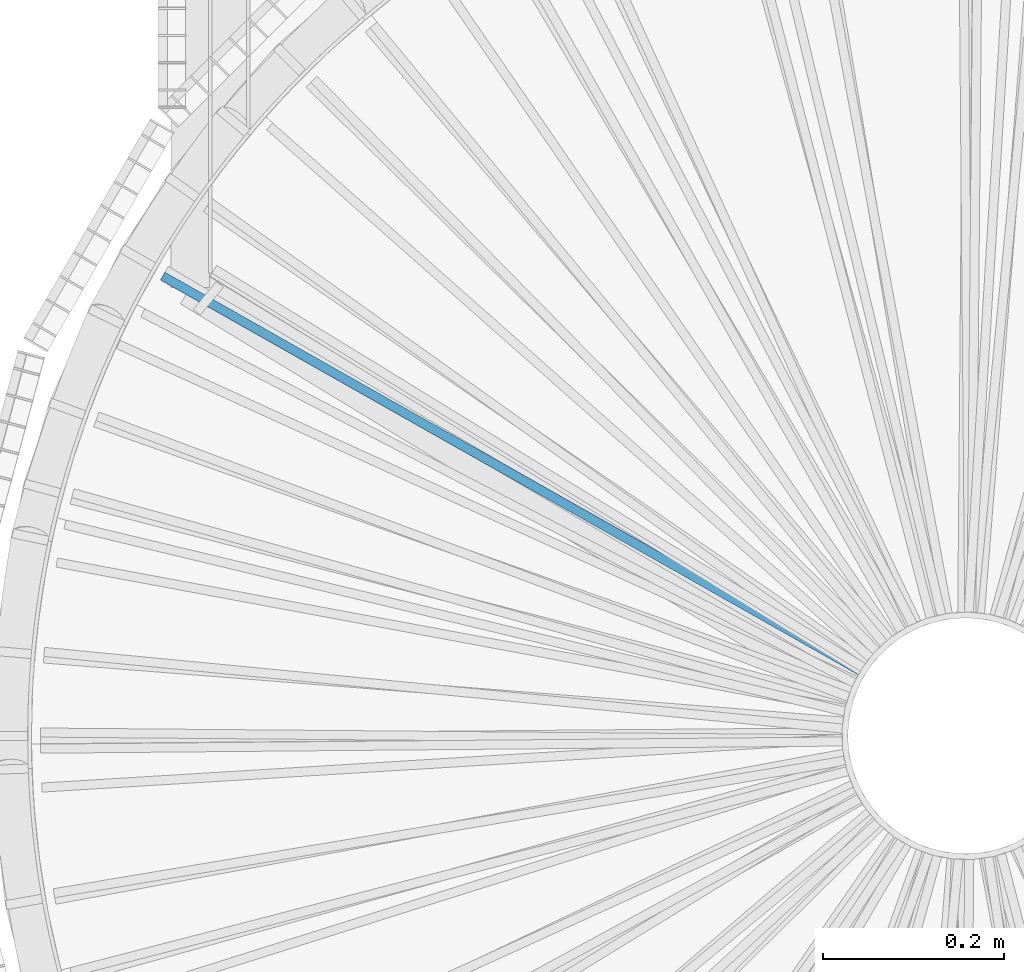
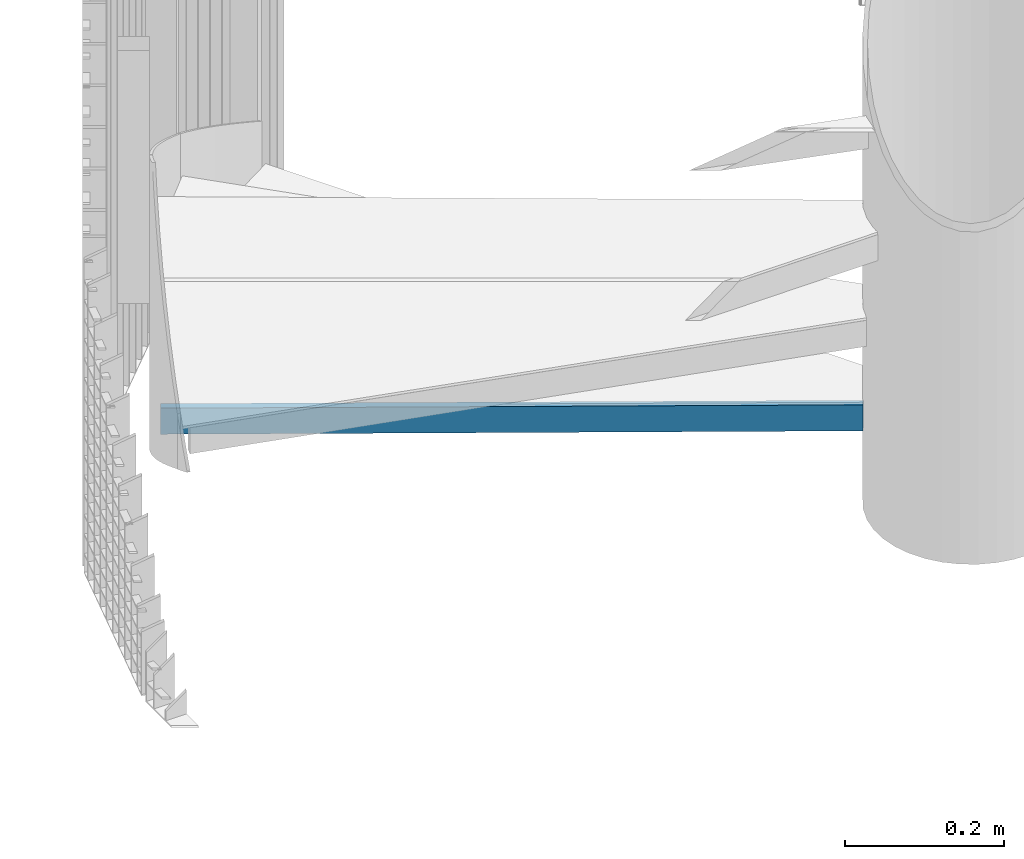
# One storey, part 229 of 1183: 1 beam, 1 element without a shape of its own.
"""IFC2X3 building model written with IfcOpenShell, lengths in millimetres."""

import ifcopenshell
import ifcopenshell.guid

model = None  # the IFC model being written
_history = None  # IfcOwnerHistory: only IFC2X3 demands one
_inside = {}  # id of a spatial element -> (the spatial element, [elements in it])
_under = {}  # id of a project, library or spatial element -> (it, [spatial elements below it])
_declared = {}  # id of a project -> (the project, [libraries it declares])
_typed = {}  # id of a type object -> (the type object, [elements of that type])
_made_of = {}  # id of a material, layer set ... -> (it, [elements and type objects made of it])


def new_model(schema):
    """Start an empty IFC model of exactly this schema.

    Asked for "IFC4X3", IfcOpenShell would pick the latest addendum, in which some entities
    have other attributes; the version numbers below select the first issue.
    IFC2X3 requires an IfcOwnerHistory on every rooted entity: one is made here for all.
    """
    global model, _history
    if schema == "IFC4X3":
        model = ifcopenshell.file(schema_version=(4, 3, 0, 0))
    else:
        model = ifcopenshell.file(schema=schema)
    _inside.clear()
    _under.clear()
    _declared.clear()
    _typed.clear()
    _made_of.clear()
    _history = None
    if model.schema == "IFC2X3":
        org = make("IfcOrganization", Name="unknown")
        user = make(
            "IfcPersonAndOrganization",
            ThePerson=make("IfcPerson", FamilyName="unknown"),
            TheOrganization=org,
        )
        app = make(
            "IfcApplication",
            ApplicationDeveloper=org,
            Version="unknown",
            ApplicationFullName="unknown",
            ApplicationIdentifier="unknown",
        )
        _history = make(
            "IfcOwnerHistory",
            OwningUser=user,
            OwningApplication=app,
            ChangeAction="ADDED",
            CreationDate=0,
        )
    return model


def make(cls, **values):
    """One entity of the class cls with the attributes given. An attribute that is None is left unset."""
    return model.create_entity(
        cls, **{name: value for name, value in values.items() if value is not None}
    )


def rooted(cls, **values):
    """An entity with a GlobalId (a new one), such as an element, a storey or a relation."""
    return make(cls, GlobalId=ifcopenshell.guid.new(), OwnerHistory=_history, **values)


def si_unit(unit_type, name, prefix=None):
    """IfcSIUnit, for example si_unit("LENGTHUNIT", "METRE", prefix="MILLI")."""
    return make("IfcSIUnit", UnitType=unit_type, Prefix=prefix, Name=name)


def assignment(units):
    """IfcUnitAssignment: the units of a project."""
    return None if units is None else make("IfcUnitAssignment", Units=units)


def point(xyz):
    """IfcCartesianPoint."""
    return None if xyz is None else make("IfcCartesianPoint", Coordinates=xyz)


def direction(xyz):
    """IfcDirection."""
    return None if xyz is None else make("IfcDirection", DirectionRatios=xyz)


def frame(location, z_axis=None, x_axis=None):
    """IfcAxis2Placement3D, a coordinate frame: its origin and axes. An axis left out is left unset."""
    return make(
        "IfcAxis2Placement3D",
        Location=point(location),
        Axis=direction(z_axis),
        RefDirection=direction(x_axis),
    )


def frame_2d(location, x_axis=None):
    """IfcAxis2Placement2D, a coordinate frame in the plane: its origin and x axis."""
    return make(
        "IfcAxis2Placement2D", Location=point(location), RefDirection=direction(x_axis)
    )


def origin_with_axes():
    """The frame at (0, 0, 0) with the z axis (0, 0, 1) and the x axis (1, 0, 0) written out."""
    return frame((0.0, 0.0, 0.0), z_axis=(0.0, 0.0, 1.0), x_axis=(1.0, 0.0, 0.0))


def origin_2d_with_axis():
    """The frame at (0, 0) in the plane with the x axis (1, 0) written out."""
    return frame_2d((0.0, 0.0), x_axis=(1.0, 0.0))


def place(relative_to, where):
    """IfcLocalPlacement: puts the frame where relative to a parent placement (None: the world)."""
    return make(
        "IfcLocalPlacement", PlacementRelTo=relative_to, RelativePlacement=where
    )


def context(
    kind, dimensions, precision=None, world=None, true_north=None, identifier=None
):
    """IfcGeometricRepresentationContext, for example the 3D "Model" context."""
    return make(
        "IfcGeometricRepresentationContext",
        ContextIdentifier=identifier,
        ContextType=kind,
        CoordinateSpaceDimension=dimensions,
        Precision=precision,
        WorldCoordinateSystem=world,
        TrueNorth=true_north,
    )


def subcontext(parent, identifier, kind, view, scale=None):
    """IfcGeometricRepresentationSubContext, for example "Body" below "Model"."""
    return make(
        "IfcGeometricRepresentationSubContext",
        ContextIdentifier=identifier,
        ContextType=kind,
        ParentContext=parent,
        TargetScale=scale,
        TargetView=view,
    )


def project(units=None, contexts=None):
    """IfcProject with its units and contexts."""
    return rooted(
        "IfcProject",
        Name="project",
        RepresentationContexts=contexts,
        UnitsInContext=assignment(units),
    )


def spatial(cls, under=None, at=None, **own):
    """A site, building, storey or space (cls), placed at a placement, below another one or the project."""
    s = rooted(cls, ObjectPlacement=at, **own)
    if under is not None:
        _under.setdefault(under.id(), (under, []))[1].append(s)
    return s


def polyline(points):
    """IfcPolyline through the points."""
    return make("IfcPolyline", Points=[point(p) for p in points])


def profile(cls, at=None, kind="AREA", **sizes):
    """A parametric profile (cls). Its sizes go by their IFC names, for example OverallWidth=200.0."""
    return make(cls, ProfileType=kind, Position=at, **sizes)


def rectangle(**sizes):
    """IfcRectangleProfileDef."""
    return profile("IfcRectangleProfileDef", **sizes)


def outline(outer, holes=None, kind="AREA"):
    """IfcArbitraryClosedProfileDef: a profile drawn as a closed curve; with holes, ...WithVoids."""
    if holes is None:
        return make("IfcArbitraryClosedProfileDef", ProfileType=kind, OuterCurve=outer)
    return make(
        "IfcArbitraryProfileDefWithVoids",
        ProfileType=kind,
        OuterCurve=outer,
        InnerCurves=holes,
    )


def extrude(swept, where, along, depth):
    """IfcExtrudedAreaSolid: the profile swept, set in the frame where, extruded along a direction by depth."""
    return make(
        "IfcExtrudedAreaSolid",
        SweptArea=swept,
        Position=where,
        ExtrudedDirection=direction(along),
        Depth=depth,
    )


def boolean(op, a, b):
    """IfcBooleanResult of two solids."""
    return make("IfcBooleanResult", Operator=op, FirstOperand=a, SecondOperand=b)


def shape(context_of_items, identifier, shape_type, items):
    """IfcShapeRepresentation: the items that make up one representation, for example the "Body"."""
    return make(
        "IfcShapeRepresentation",
        ContextOfItems=context_of_items,
        RepresentationIdentifier=identifier,
        RepresentationType=shape_type,
        Items=items,
    )


def material(Name=None, Category=None):
    """IfcMaterial."""
    return make("IfcMaterial", Name=Name, Category=Category)


def made_of(thing, what):
    """Note that an element or type object is made of a material, layer set ...; save() writes the relation."""
    if what is not None:
        _made_of.setdefault(what.id(), (what, []))[1].append(thing)
    return thing


def type_object(cls, material=None, **own):
    """A type object (cls), such as IfcWallType, which elements share."""
    return made_of(rooted(cls, **own), material)


def element(
    cls,
    number,
    at=None,
    inside=None,
    cuts=None,
    type_object=None,
    material=None,
    context=None,
    identifier="Body",
    shape_type=None,
    held_by="IfcProductDefinitionShape",
    body=None,
    shapes=None,
    **own,
):
    """One element of the class cls, such as IfcWall. Its Tag is "e" and its number.

    at: its placement. inside: the storey or other place that contains it. cuts: it is an
    opening in that element (IfcRelVoidsElement). A single representation is given by context,
    identifier, shape_type and body (its items); several are given by shapes. held_by: the class
    of the entity that holds the representations. save() writes the other relations.
    """
    e = rooted(cls, Tag="e%d" % number, ObjectPlacement=at, **own)
    if body is not None:
        shapes = [shape(context, identifier, shape_type, body)]
    if shapes is not None:
        e.Representation = make(held_by, Representations=shapes)
    if inside is not None:
        _inside.setdefault(inside.id(), (inside, []))[1].append(e)
    if cuts is not None:
        rooted(
            "IfcRelVoidsElement", RelatingBuildingElement=cuts, RelatedOpeningElement=e
        )
    if type_object is not None:
        _typed.setdefault(type_object.id(), (type_object, []))[1].append(e)
    return made_of(e, material)


def aggregate(whole, parts):
    """IfcRelAggregates: a whole, such as a stair, and the parts it consists of."""
    return rooted("IfcRelAggregates", RelatingObject=whole, RelatedObjects=parts)


def save(model, path):
    """Write the relations noted so far, then the file.

    IfcRelAggregates (storeys below a building ...), IfcRelContainedInSpatialStructure (elements
    in a storey), IfcRelDefinesByType, IfcRelAssociatesMaterial and IfcRelDeclares: one each for
    every whole, place, type object, material and project.
    """
    for whole, parts in _under.values():
        aggregate(whole, parts)
    for where, things in _inside.values():
        rooted(
            "IfcRelContainedInSpatialStructure",
            RelatedElements=things,
            RelatingStructure=where,
        )
    for kind, things in _typed.values():
        rooted("IfcRelDefinesByType", RelatedObjects=things, RelatingType=kind)
    for what, things in _made_of.values():
        rooted("IfcRelAssociatesMaterial", RelatedObjects=things, RelatingMaterial=what)
    for by, libraries in _declared.values():
        rooted("IfcRelDeclares", RelatingContext=by, RelatedDefinitions=libraries)
    model.write(path)


model = new_model("IFC2X3")

# Units and contexts
model_context = context("Model", 3, precision=1e-05, world=origin_with_axes())
body_context = subcontext(model_context, "Body", "Model", "MODEL_VIEW")
ifc_project = project(units=[si_unit("LENGTHUNIT", "METRE", prefix="MILLI"), si_unit("AREAUNIT", "SQUARE_METRE"), si_unit("VOLUMEUNIT", "CUBIC_METRE"), si_unit("MASSUNIT", "GRAM", prefix="KILO"), si_unit("TIMEUNIT", "SECOND"), si_unit("PLANEANGLEUNIT", "RADIAN"), si_unit("SOLIDANGLEUNIT", "STERADIAN"), si_unit("THERMODYNAMICTEMPERATUREUNIT", "DEGREE_CELSIUS"), si_unit("LUMINOUSINTENSITYUNIT", "LUMEN")], contexts=[model_context])

# Site, building, storey
site_placement = place(None, origin_with_axes())
site = spatial("IfcSite", under=ifc_project, at=site_placement, Name="Undefined", CompositionType="ELEMENT")
building_placement = place(site_placement, origin_with_axes())
building = spatial("IfcBuilding", under=site, at=building_placement, Name="Undefined", CompositionType="ELEMENT")
storey_placement = place(building_placement, origin_with_axes())
storey = spatial("IfcBuildingStorey", under=building, at=storey_placement, Name="Undefined", CompositionType="ELEMENT", Elevation=0.0)

# Assembly, beam
assembly_placement = place(storey_placement, origin_with_axes())
assembly = element("IfcElementAssembly", 1, at=assembly_placement, inside=storey, Name="POTEAU", AssemblyPlace="NOTDEFINED", PredefinedType="NOTDEFINED")
ifc_material = material(Name="STEEL/S235JR")
beam_type = type_object("IfcBeamType", Name="PL10*40", PredefinedType="NOTDEFINED")
beam_placement = place(assembly_placement, frame((-70.557191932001, 45.6889352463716, 130.52), z_axis=(0.0, 0.0, 1.0), x_axis=(-0.870228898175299, 0.492647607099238, 0.0)))
beam = element("IfcBeam", 2, at=beam_placement, type_object=beam_type, material=ifc_material, Name="RAIDISSEUR", context=body_context, shape_type="CSG", body=[
    boolean("DIFFERENCE", extrude(rectangle(XDim=10.0, YDim=40.0, at=origin_2d_with_axis()), frame((935.982964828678, -2.59787459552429e-14, -3.63797880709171e-12), z_axis=(-1.0, 0.0, 0.0), x_axis=(0.0, -1.0, 0.0)), (0.0, 0.0, 1.0), 935.98), extrude(outline(polyline([(0.0, 0.0), (30.5663019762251, -4.91127138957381e-11), (60.366242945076, 6.80164206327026), (87.9055294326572, 20.0638634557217), (111.803226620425, 39.1216410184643), (130.861004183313, 63.0193382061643), (144.123225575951, 90.5586246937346), (150.9248676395, 120.358565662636), (150.924867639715, 150.924867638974), (144.123225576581, 180.724808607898), (130.86100418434, 208.264095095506), (111.803226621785, 232.161792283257), (87.9055294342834, 251.219569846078), (60.3662429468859, 264.481791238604), (30.5663019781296, 271.283433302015), (1.90266291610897e-09, 271.28343330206), (-29.7999409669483, 264.481791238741), (-57.3392274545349, 251.219569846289), (-81.2369246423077, 232.161792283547), (-100.294702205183, 208.26409509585), (-113.556923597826, 180.724808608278), (-120.35856566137, 150.92486763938), (-120.358565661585, 120.358565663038), (-113.556923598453, 90.5586246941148), (-100.294702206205, 63.0193382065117), (-81.2369246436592, 39.1216410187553), (-57.3392274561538, 20.0638634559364), (-29.7999409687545, 6.80164206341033), (0.0, 0.0)])), frame((36.5163710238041, 69.264073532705, -22.5000000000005), z_axis=(0.0, 0.0, 1.0), x_axis=(-0.566618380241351, 0.823980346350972, 0.0)), (0.0, 0.0, 1.0), 45.0)),
])
aggregate(assembly, [beam])

save(model, "model.ifc")
